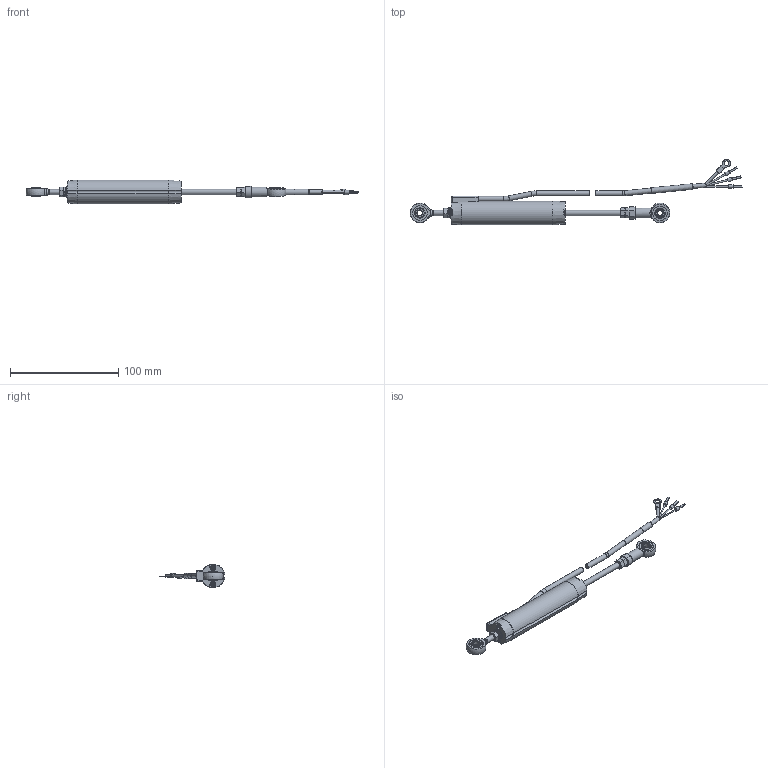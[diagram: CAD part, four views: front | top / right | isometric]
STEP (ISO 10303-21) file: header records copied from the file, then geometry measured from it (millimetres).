
FILE_DESCRIPTION(/* description */ (''),/* implementation_level */ '2;1');
FILE_NAME(/* name */ 'D:\LPPS-22 CAD Drawings\3D\LPPS-22-050\LPPS-22-050 SW.stp',/* time_stamp */ '2021-10-22T12:43:04-04:00',/* author */ ('Justin'),/* organization */ (''),/* preprocessor_version */ 'ST-DEVELOPER v18.1',/* originating_system */ 'Autodesk Inventor 2022',/* authorisation */ '');
FILE_SCHEMA (('AUTOMOTIVE_DESIGN { 1 0 10303 214 3 1 1 }'));
Products named in the file (4): LPPS-22-050 SW; LPPS-22-050_Cable Simplify; LPPS-22-050_Housing Simplify; LPPS-22-050_Shaft Simplify
Assembly tree (3 placements, depth 2):
  LPPS-22-050 SW
    LPPS-22-050_Cable Simplify
    LPPS-22-050_Housing Simplify
    LPPS-22-050_Shaft Simplify
Bounding box: 306.05 x 60.43 x 21.96 mm (x, y, z)
Volume: 35426.4 mm3; surface area: 31606.2 mm2
Topology: 30 solids, 30 shells, 757 faces, 2739 edges, 2048 vertices
Faces by surface type: cylinder 349, plane 202, cone 142, bspline 28, torus 22, sphere 14
Full cylindrical faces by diameter (mm): 1.27 x3, 1.48 x96, 1.575 x2, 2 x92, 2.286 x5, 3.175 x5, 3.81 x1, 3.881 x1, 4 x4, 4.134 x1, 4.191 x1, 4.342 x12, 4.572 x5, 4.826 x3, 4.851 x1, 4.953 x1, 5 x15, 5.004 x2, 5.08 x1, 5.207 x1, 5.3 x1, 6.35 x2, 9.144 x1, 10 x1, 12.675 x4, 12.7 x1, 15.875 x2, 17.78 x1
Entity records: 45085 total; most frequent: CARTESIAN_POINT 23734, ORIENTED_EDGE 5444, DIRECTION 3368, EDGE_CURVE 2722, VERTEX_POINT 2048, AXIS2_PLACEMENT_3D 1373, EDGE_LOOP 826, STYLED_ITEM 787
